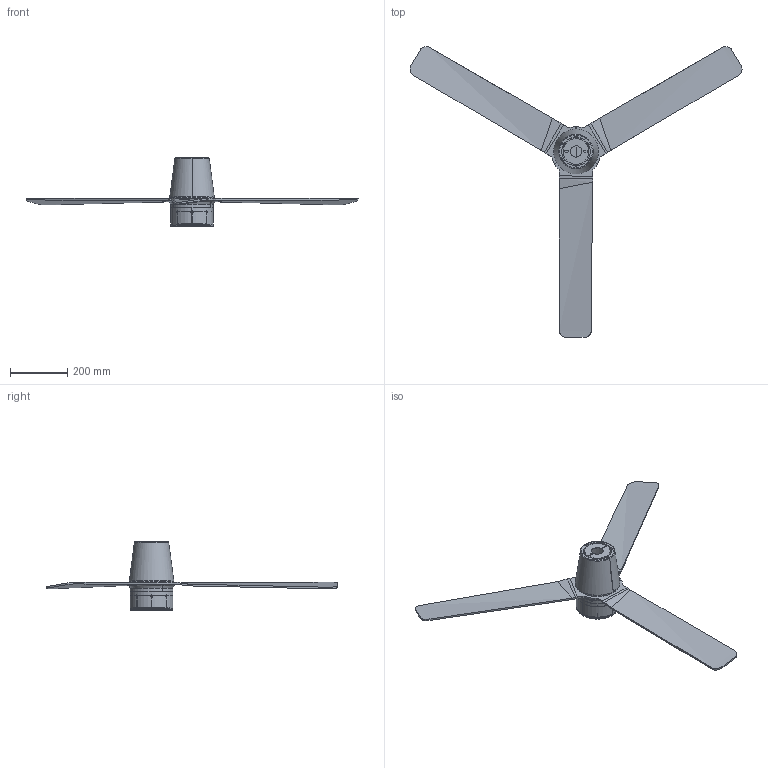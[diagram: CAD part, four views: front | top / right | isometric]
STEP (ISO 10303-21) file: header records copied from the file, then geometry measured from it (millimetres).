
FILE_DESCRIPTION(/* description */ (''),/* implementation_level */ '2;1');
FILE_NAME(/* name */ 'punt_tub_tek_m_3d',/* time_stamp */ '2026-06-25T12:35:21+02:00',/* author */ (''),/* organization */ (''),/* preprocessor_version */ 'ST-DEVELOPER v19.2',/* originating_system */ 'Rhino 8.30',/* authorisation */ '');
FILE_SCHEMA (('CONFIG_CONTROL_DESIGN'));
Length unit declared in the file: millimetre
Products named in the file (1): Document
Bounding box: 1161.55 x 1017.63 x 239.62 mm (x, y, z)
Volume: 1642944.4 mm3; surface area: 850981.7 mm2
Topology: 8 solids, 9 shells, 812 faces, 2276 edges, 1469 vertices
Faces by surface type: plane 292, cylinder 275, bspline 245
Entity records: 45764 total; most frequent: CARTESIAN_POINT 21085, ORIENTED_EDGE 4546, EDGE_CURVE 2274, DIRECTION 2173, VERTEX_POINT 1469, B_SPLINE_CURVE_WITH_KNOTS 1432, AXIS2_PLACEMENT_3D 1370, EDGE_LOOP 886
